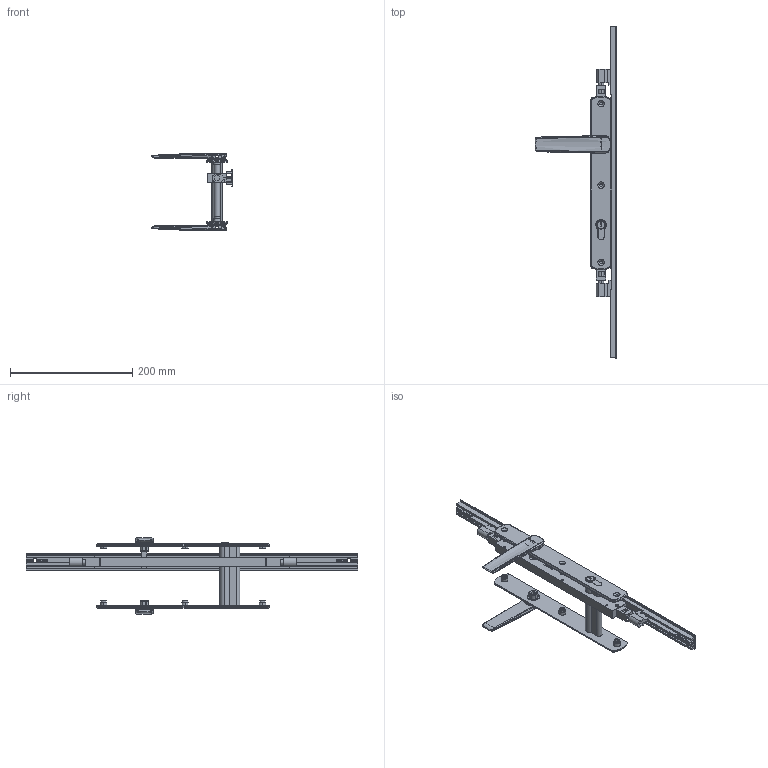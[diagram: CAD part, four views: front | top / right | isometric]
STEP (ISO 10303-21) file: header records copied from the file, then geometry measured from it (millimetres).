
FILE_DESCRIPTION (( 'STEP AP214' ), '1' );
FILE_NAME ('TPL-W-EU-625-U 06Nov2024.STEP', '2024-11-27T22:02:14', ( '' ), ( '' ), 'SwSTEP 2.0', 'SolidWorks 2023', '' );
FILE_SCHEMA (( 'AUTOMOTIVE_DESIGN' ));
Length unit declared in the file: millimetre
Products named in the file (24): Copy of LKC-505 Swing handle zinc - simplified^Copy of TPGen2 handle keyed external zinc - simplified_TPL-W-EU-125 04Nov2024; Copy of Adapter CnE - simplfied^TPL-W-EU-125 04Nov2024_26mm backset; Copy of TPLGen2 lock body keyed assembly^TPL-W-EU-125 04Nov2024_Bolts retracted; Copy of COV-112-A Cover A suit TPLGen2 standard range^TPL-W-EU-125 04Nov2024_1335mm; TPLGen2 push rod - simplified_Female thread M10; Copy of TPGen2 handle keyed external zinc - simplified^TPL-W-EU-125 04Nov2024_Right; Copy of Copy of LKC-531 Lock twinpoint transmission rod wood system^TPL-W-EU-125 04Nov2024_Standard Range 2891.7mm; TPL-W-EU-625-U 06Nov2024; Copy of LKC-585 Rotator body zinc^Copy of TPGen2 handle keyed external zinc - simplified_TPL-W-EU-125 04Nov2024; Copy of LKC-584 Pivot body zinc - simplified^Copy of TPGen2 handle keyed internal zinc - simplified_TPL-W-EU-125 04Nov2024; Copy of Adapter DnF - simplfied^TPL-W-EU-125 04Nov2024_26mm backset; Copy of LKC-531 Lock twinpoint transmission rod wood system^TPL-W-EU-125 04Nov2024_Standard Range (588.7mm); Copy of COV-112-C Cover C TPLGen2 Lock body^TPL-W-EU-125 04Nov2024; Bolt.step; Copy of LKC-586 Spindle square 8mm with M4 hole^Copy of TPGen2 handle keyed internal zinc - simplified_TPL-W-EU-125 04Nov2024_37mm; Copy of LKC-512 Escutcheon plate keyed internal 285mm long zinc - simplified^Copy of TPGen2 handle keyed internal zinc - simplified_TPL-W-EU-125 04Nov2024; Copy of LKC-584 Pivot body zinc - simplified^Copy of TPGen2 handle keyed external zinc - simplified_TPL-W-EU-125 04Nov2024; Copy of COV-112-B Cover B suit TPLGen2 standard range^TPL-W-EU-125 04Nov2024_2870mm; Copy of LKC-585 Rotator body zinc^Copy of TPGen2 handle keyed internal zinc - simplified_TPL-W-EU-125 04Nov2024; Copy of TPGen2 handle keyed internal zinc - simplified^TPL-W-EU-125 04Nov2024_Left; Copy of TPLGen2 lock body keyed^Copy of TPLGen2 lock body keyed assembly_TPL-W-EU-125 04Nov2024; Copy of TPL-W-EU-131 04Nov2024^TPL-W-EU-125 04Nov2024_TPL-050-105 Left; Copy of LKC-514 Escutcheon plate keyed external 285mm long zinc - simplified^Copy of TPGen2 handle keyed external zinc - simplified_TPL-W-EU-125 04Nov2024; Copy of LKC-505 Swing handle zinc - simplified^Copy of TPGen2 handle keyed internal zinc - simplified_TPL-W-EU-125 04Nov2024
Assembly tree (21 placements, depth 3):
  Copy of COV-112-A Cover A suit TPLGen2 standard range^TPL-W-EU-125 04Nov2024_1335mm
  TPL-W-EU-625-U 06Nov2024
    Copy of TPLGen2 lock body keyed assembly^TPL-W-EU-125 04Nov2024_Bolts retracted
      Copy of TPLGen2 lock body keyed^Copy of TPLGen2 lock body keyed assembly_TPL-W-EU-125 04Nov2024
      TPLGen2 push rod - simplified_Female thread M10  x2
    Copy of TPGen2 handle keyed internal zinc - simplified^TPL-W-EU-125 04Nov2024_Left
      Copy of LKC-512 Escutcheon plate keyed internal 285mm long zinc - simplified^Copy of TPGen2 handle keyed internal zinc - simplified_TPL-W-EU-125 04Nov2024
      Copy of LKC-505 Swing handle zinc - simplified^Copy of TPGen2 handle keyed internal zinc - simplified_TPL-W-EU-125 04Nov2024
      Copy of LKC-585 Rotator body zinc^Copy of TPGen2 handle keyed internal zinc - simplified_TPL-W-EU-125 04Nov2024
      Copy of LKC-586 Spindle square 8mm with M4 hole^Copy of TPGen2 handle keyed internal zinc - simplified_TPL-W-EU-125 04Nov2024_37mm
      Copy of LKC-584 Pivot body zinc - simplified^Copy of TPGen2 handle keyed internal zinc - simplified_TPL-W-EU-125 04Nov2024
    Copy of TPGen2 handle keyed external zinc - simplified^TPL-W-EU-125 04Nov2024_Right
      Copy of LKC-514 Escutcheon plate keyed external 285mm long zinc - simplified^Copy of TPGen2 handle keyed external zinc - simplified_TPL-W-EU-125 04Nov2024
      Copy of LKC-505 Swing handle zinc - simplified^Copy of TPGen2 handle keyed external zinc - simplified_TPL-W-EU-125 04Nov2024
      Copy of LKC-585 Rotator body zinc^Copy of TPGen2 handle keyed external zinc - simplified_TPL-W-EU-125 04Nov2024
      Copy of LKC-584 Pivot body zinc - simplified^Copy of TPGen2 handle keyed external zinc - simplified_TPL-W-EU-125 04Nov2024
    Copy of TPL-W-EU-131 04Nov2024^TPL-W-EU-125 04Nov2024_TPL-050-105 Left
    Copy of COV-112-C Cover C TPLGen2 Lock body^TPL-W-EU-125 04Nov2024
    Copy of LKC-531 Lock twinpoint transmission rod wood system^TPL-W-EU-125 04Nov2024_Standard Range (588.7mm)
    Copy of Copy of LKC-531 Lock twinpoint transmission rod wood system^TPL-W-EU-125 04Nov2024_Standard Range 2891.7mm
    Copy of Adapter CnE - simplfied^TPL-W-EU-125 04Nov2024_26mm backset
    Copy of Adapter DnF - simplfied^TPL-W-EU-125 04Nov2024_26mm backset
  Bolt.step
  Copy of COV-112-B Cover B suit TPLGen2 standard range^TPL-W-EU-125 04Nov2024_2870mm
Bounding box: 134.12 x 544 x 125.92 mm (x, y, z)
Volume: 369554.2 mm3; surface area: 181810.1 mm2
Topology: 18 solids, 18 shells, 1389 faces, 3377 edges, 2066 vertices
Faces by surface type: bspline 417, plane 391, cylinder 335, cone 132, torus 98, sphere 16
Entity records: 52285 total; most frequent: CARTESIAN_POINT 22806, ORIENTED_EDGE 6558, DIRECTION 5321, EDGE_CURVE 3279, AXIS2_PLACEMENT_3D 2061, VERTEX_POINT 2006, EDGE_LOOP 1487, ADVANCED_FACE 1354
